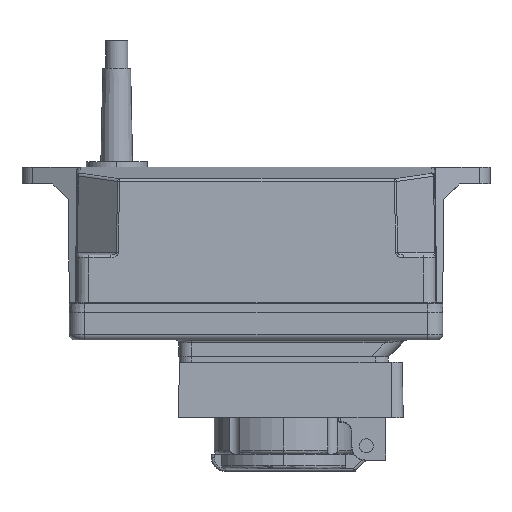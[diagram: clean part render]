
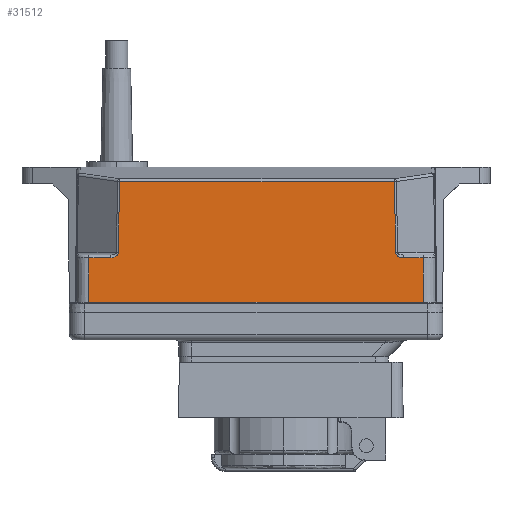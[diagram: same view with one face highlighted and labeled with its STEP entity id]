
A CAD part, left-side view. The second image highlights one B-rep face of the part: STEP entity #31512.
In plain terms, the highlighted planar face has unit normal (-1, 0, 0.009).
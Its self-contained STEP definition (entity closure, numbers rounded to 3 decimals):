
#38 = DIRECTION ( 'NONE',  ( 0.009, 0., 1. ) ) ;
#401 = ORIENTED_EDGE ( 'NONE', *, *, #32152, .F. ) ;
#724 = DIRECTION ( 'NONE',  ( -1., 0., 0.009 ) ) ;
#1494 = CARTESIAN_POINT ( 'NONE',  ( -43.356, 50.585, 19.509 ) ) ;
#2104 = CARTESIAN_POINT ( 'NONE',  ( -43.356, 60., 19.509 ) ) ;
#3126 = VERTEX_POINT ( 'NONE', #21557 ) ;
#3242 = VECTOR ( 'NONE', #47994, 1000. ) ;
#4333 = EDGE_CURVE ( 'NONE', #34854, #36548, #41898, .T. ) ;
#4794 = CARTESIAN_POINT ( 'NONE',  ( -43.117, 49.403, 46.886 ) ) ;
#4965 = CARTESIAN_POINT ( 'NONE',  ( -43.347, 49.424, 20.493 ) ) ;
#5217 = DIRECTION ( 'NONE',  ( 0.009, 0.016, 1. ) ) ;
#5276 = VECTOR ( 'NONE', #20106, 1000. ) ;
#5508 = CARTESIAN_POINT ( 'NONE',  ( -43.349, -50.134, 20.319 ) ) ;
#6973 = VERTEX_POINT ( 'NONE', #17156 ) ;
#7295 = PLANE ( 'NONE',  #27379 ) ;
#7477 = CARTESIAN_POINT ( 'NONE',  ( -43.356, -50.545, 19.509 ) ) ;
#7603 = CARTESIAN_POINT ( 'NONE',  ( -43.5, -60., 3. ) ) ;
#7633 = ORIENTED_EDGE ( 'NONE', *, *, #41245, .T. ) ;
#8081 = LINE ( 'NONE', #4794, #5276 ) ;
#8727 = CARTESIAN_POINT ( 'NONE',  ( -43.11, -49.696, 47.741 ) ) ;
#8920 = LINE ( 'NONE', #24278, #48280 ) ;
#8950 = VERTEX_POINT ( 'NONE', #36307 ) ;
#10217 = CARTESIAN_POINT ( 'NONE',  ( -43.349, 49.427, 20.319 ) ) ;
#10436 = VECTOR ( 'NONE', #22508, 1000. ) ;
#12178 = VERTEX_POINT ( 'NONE', #48161 ) ;
#12963 = ORIENTED_EDGE ( 'NONE', *, *, #28976, .T. ) ;
#13765 = CARTESIAN_POINT ( 'NONE',  ( -43.356, -52.926, 19.509 ) ) ;
#15788 = ORIENTED_EDGE ( 'NONE', *, *, #36916, .T. ) ;
#16156 = CARTESIAN_POINT ( 'NONE',  ( -43.339, -50.115, 21.474 ) ) ;
#16479 = CARTESIAN_POINT ( 'NONE',  ( -43.496, -60., 3.496 ) ) ;
#17058 = CARTESIAN_POINT ( 'NONE',  ( -43.356, 52.219, 19.509 ) ) ;
#17156 = CARTESIAN_POINT ( 'NONE',  ( -43.339, 49.408, 21.474 ) ) ;
#19810 = CARTESIAN_POINT ( 'NONE',  ( -43.5, 61.5, 3. ) ) ;
#20106 = DIRECTION ( 'NONE',  ( 0., 1., 0. ) ) ;
#20451 = DIRECTION ( 'NONE',  ( 0.009, 0., 1. ) ) ;
#20981 = VERTEX_POINT ( 'NONE', #16156 ) ;
#21225 = LINE ( 'NONE', #29511, #3242 ) ;
#21557 = CARTESIAN_POINT ( 'NONE',  ( -43.356, 52.219, 19.509 ) ) ;
#22508 = DIRECTION ( 'NONE',  ( 0., 1., 0. ) ) ;
#22966 = CARTESIAN_POINT ( 'NONE',  ( -43.117, 49.003, 46.886 ) ) ;
#23542 = VERTEX_POINT ( 'NONE', #31185 ) ;
#23602 = CARTESIAN_POINT ( 'NONE',  ( -43.356, -60., 19.509 ) ) ;
#23830 = DIRECTION ( 'NONE',  ( 0., 1., 0. ) ) ;
#24278 = CARTESIAN_POINT ( 'NONE',  ( -43.5, 60., 3. ) ) ;
#24390 = VECTOR ( 'NONE', #23830, 1000. ) ;
#25013 = EDGE_LOOP ( 'NONE', ( #36213, #15788, #29041, #46926, #49122, #12963, #7633, #31602, #401, #34311 ) ) ;
#25102 = CARTESIAN_POINT ( 'NONE',  ( -43.339, 49.408, 21.474 ) ) ;
#27379 = AXIS2_PLACEMENT_3D ( 'NONE', #19810, #724, #35620 ) ;
#27586 = VERTEX_POINT ( 'NONE', #2104 ) ;
#28377 = CARTESIAN_POINT ( 'NONE',  ( -43.356, -51.292, 19.509 ) ) ;
#28976 = EDGE_CURVE ( 'NONE', #20981, #23542, #39288, .T. ) ;
#29041 = ORIENTED_EDGE ( 'NONE', *, *, #4333, .T. ) ;
#29511 = CARTESIAN_POINT ( 'NONE',  ( -43.496, -60., 3.496 ) ) ;
#31185 = CARTESIAN_POINT ( 'NONE',  ( -43.117, -49.71, 46.886 ) ) ;
#31512 = ADVANCED_FACE ( 'NONE', ( #48872 ), #7295, .T. ) ;
#31602 = ORIENTED_EDGE ( 'NONE', *, *, #43022, .T. ) ;
#32122 = CARTESIAN_POINT ( 'NONE',  ( -43.356, 61.5, 19.509 ) ) ;
#32152 = EDGE_CURVE ( 'NONE', #3126, #6973, #35437, .T. ) ;
#32246 = EDGE_CURVE ( 'NONE', #20981, #12178, #42403, .T. ) ;
#32338 = DIRECTION ( 'NONE',  ( -0.009, 0.016, -1. ) ) ;
#32877 = CARTESIAN_POINT ( 'NONE',  ( -43.339, -50.115, 21.474 ) ) ;
#32905 = EDGE_CURVE ( 'NONE', #8950, #27586, #8920, .T. ) ;
#34294 = EDGE_CURVE ( 'NONE', #3126, #27586, #35351, .T. ) ;
#34311 = ORIENTED_EDGE ( 'NONE', *, *, #34294, .T. ) ;
#34854 = VERTEX_POINT ( 'NONE', #16479 ) ;
#35211 = VECTOR ( 'NONE', #5217, 1000. ) ;
#35351 = LINE ( 'NONE', #32122, #24390 ) ;
#35437 =( BOUNDED_CURVE ( )  B_SPLINE_CURVE ( 3, ( #17058, #1494, #10217, #25102 ),
 .UNSPECIFIED., .F., .T. ) 
 B_SPLINE_CURVE_WITH_KNOTS ( ( 4, 4 ),
 ( 4.725, 6.278 ),
 .UNSPECIFIED. ) 
 CURVE ( )  GEOMETRIC_REPRESENTATION_ITEM ( )  RATIONAL_B_SPLINE_CURVE ( ( 1., 0.809, 0.809, 1. ) ) 
 REPRESENTATION_ITEM ( '' )  );
#35576 = LINE ( 'NONE', #4965, #41476 ) ;
#35620 = DIRECTION ( 'NONE',  ( 0.009, 0., 1. ) ) ;
#36213 = ORIENTED_EDGE ( 'NONE', *, *, #32905, .F. ) ;
#36307 = CARTESIAN_POINT ( 'NONE',  ( -43.496, 60., 3.496 ) ) ;
#36548 = VERTEX_POINT ( 'NONE', #23602 ) ;
#36916 = EDGE_CURVE ( 'NONE', #8950, #34854, #21225, .T. ) ;
#38091 = VECTOR ( 'NONE', #38, 1000. ) ;
#39288 = LINE ( 'NONE', #8727, #35211 ) ;
#41245 = EDGE_CURVE ( 'NONE', #23542, #48932, #8081, .T. ) ;
#41263 = LINE ( 'NONE', #7477, #10436 ) ;
#41476 = VECTOR ( 'NONE', #32338, 1000. ) ;
#41898 = LINE ( 'NONE', #7603, #38091 ) ;
#42403 =( BOUNDED_CURVE ( )  B_SPLINE_CURVE ( 3, ( #32877, #5508, #28377, #13765 ),
 .UNSPECIFIED., .F., .T. ) 
 B_SPLINE_CURVE_WITH_KNOTS ( ( 4, 4 ),
 ( 0.005, 1.558 ),
 .UNSPECIFIED. ) 
 CURVE ( )  GEOMETRIC_REPRESENTATION_ITEM ( )  RATIONAL_B_SPLINE_CURVE ( ( 1., 0.809, 0.809, 1. ) ) 
 REPRESENTATION_ITEM ( '' )  );
#43022 = EDGE_CURVE ( 'NONE', #48932, #6973, #35576, .T. ) ;
#44998 = EDGE_CURVE ( 'NONE', #36548, #12178, #41263, .T. ) ;
#46926 = ORIENTED_EDGE ( 'NONE', *, *, #44998, .T. ) ;
#47994 = DIRECTION ( 'NONE',  ( 0., -1., 0. ) ) ;
#48161 = CARTESIAN_POINT ( 'NONE',  ( -43.356, -52.926, 19.509 ) ) ;
#48280 = VECTOR ( 'NONE', #20451, 1000. ) ;
#48872 = FACE_OUTER_BOUND ( 'NONE', #25013, .T. ) ;
#48932 = VERTEX_POINT ( 'NONE', #22966 ) ;
#49122 = ORIENTED_EDGE ( 'NONE', *, *, #32246, .F. ) ;
